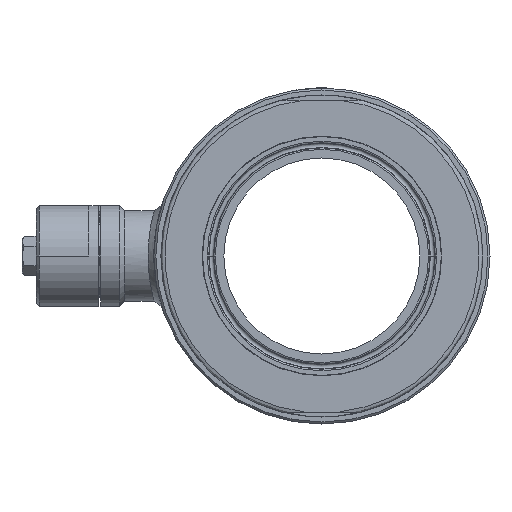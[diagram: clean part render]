
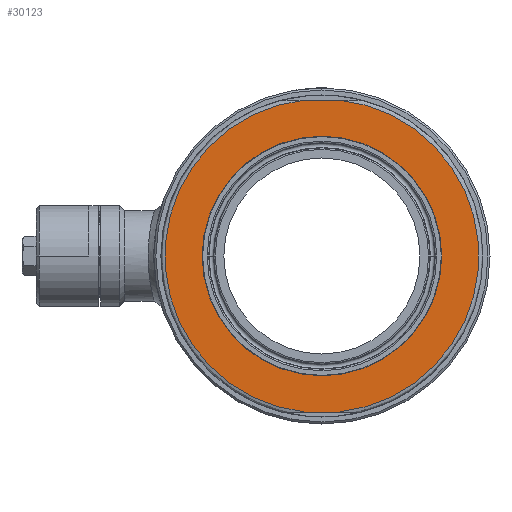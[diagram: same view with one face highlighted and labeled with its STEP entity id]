
A CAD part, left-side view. The second image highlights one B-rep face of the part: STEP entity #30123.
In plain terms, the highlighted planar face has unit normal (-1, 0, 0).
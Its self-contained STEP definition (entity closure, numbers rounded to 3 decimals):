
#3238=CARTESIAN_POINT('',(-68.,0.,0.));
#3239=DIRECTION('',(-1.,0.,0.));
#3240=DIRECTION('',(0.,-1.,0.));
#3241=AXIS2_PLACEMENT_3D('',#3238,#3239,#3240);
#3270=DIRECTION('',(0.,-1.,0.));
#3271=VECTOR('',#3270,17.635);
#3272=CARTESIAN_POINT('',(-68.,8.818,77.5));
#3273=LINE('',#3272,#3271);
#3277=DIRECTION('',(0.,-1.,0.));
#3278=VECTOR('',#3277,17.635);
#3279=CARTESIAN_POINT('',(-68.,8.818,-77.5));
#3280=LINE('',#3279,#3278);
#3321=CARTESIAN_POINT('',(-68.,8.818,77.5));
#3354=CARTESIAN_POINT('',(-68.,0.,0.));
#3355=DIRECTION('',(-1.,0.,0.));
#3356=DIRECTION('',(0.,0.113,0.994));
#3357=AXIS2_PLACEMENT_3D('',#3354,#3355,#3356);
#3362=CARTESIAN_POINT('',(-68.,8.818,-77.5));
#3425=CARTESIAN_POINT('',(-68.,0.,0.));
#3426=DIRECTION('',(-1.,0.,0.));
#3427=DIRECTION('',(0.,-0.113,-0.994));
#3428=AXIS2_PLACEMENT_3D('',#3425,#3426,#3427);
#3433=CARTESIAN_POINT('',(-68.,-8.818,77.5));
#3482=CARTESIAN_POINT('',(-68.,-8.818,-77.5));
#3536=CARTESIAN_POINT('',(-68.,0.,0.));
#3537=DIRECTION('',(-1.,0.,0.));
#3538=DIRECTION('',(0.,1.,0.));
#3539=AXIS2_PLACEMENT_3D('',#3536,#3537,#3538);
#27068=CARTESIAN_POINT('',(-68.,57.05,0.));
#27069=CARTESIAN_POINT('',(-68.,-57.05,0.));
#27070=VERTEX_POINT('',#27068);
#27071=VERTEX_POINT('',#27069);
#27132=VERTEX_POINT('',#3482);
#27135=VERTEX_POINT('',#3433);
#27140=VERTEX_POINT('',#3362);
#27143=VERTEX_POINT('',#3321);
#30103=CARTESIAN_POINT('',(-68.,0.,0.));
#30104=DIRECTION('',(-1.,0.,0.));
#30105=DIRECTION('',(0.,-1.,0.));
#30106=AXIS2_PLACEMENT_3D('',#30103,#30104,#30105);
#30107=PLANE('',#30106);
#30109=ORIENTED_EDGE('',*,*,#30108,.T.);
#30111=ORIENTED_EDGE('',*,*,#30110,.F.);
#30113=ORIENTED_EDGE('',*,*,#30112,.F.);
#30115=ORIENTED_EDGE('',*,*,#30114,.F.);
#30116=EDGE_LOOP('',(#30109,#30111,#30113,#30115));
#30117=FACE_OUTER_BOUND('',#30116,.F.);
#30118=ORIENTED_EDGE('',*,*,#30093,.T.);
#30120=ORIENTED_EDGE('',*,*,#30119,.T.);
#30121=EDGE_LOOP('',(#30118,#30120));
#30122=FACE_BOUND('',#30121,.F.);
#30123=ADVANCED_FACE('',(#30117,#30122),#30107,.T.);
#3242=CIRCLE('',#3241,57.05);
#3358=CIRCLE('',#3357,78.);
#3429=CIRCLE('',#3428,78.);
#3540=CIRCLE('',#3539,57.05);
#30093=EDGE_CURVE('',#27071,#27070,#3242,.T.);
#30108=EDGE_CURVE('',#27143,#27135,#3273,.T.);
#30110=EDGE_CURVE('',#27132,#27135,#3429,.T.);
#30112=EDGE_CURVE('',#27140,#27132,#3280,.T.);
#30114=EDGE_CURVE('',#27143,#27140,#3358,.T.);
#30119=EDGE_CURVE('',#27070,#27071,#3540,.T.);
